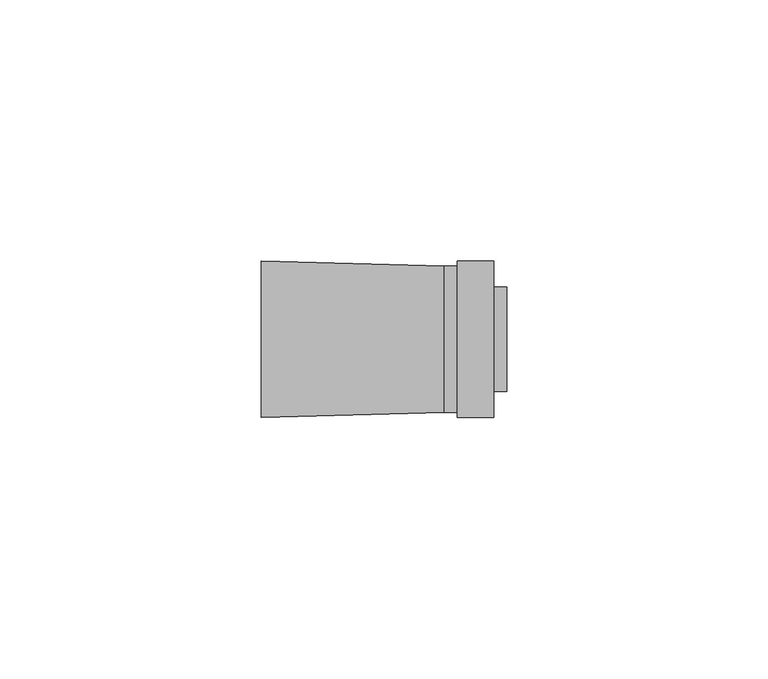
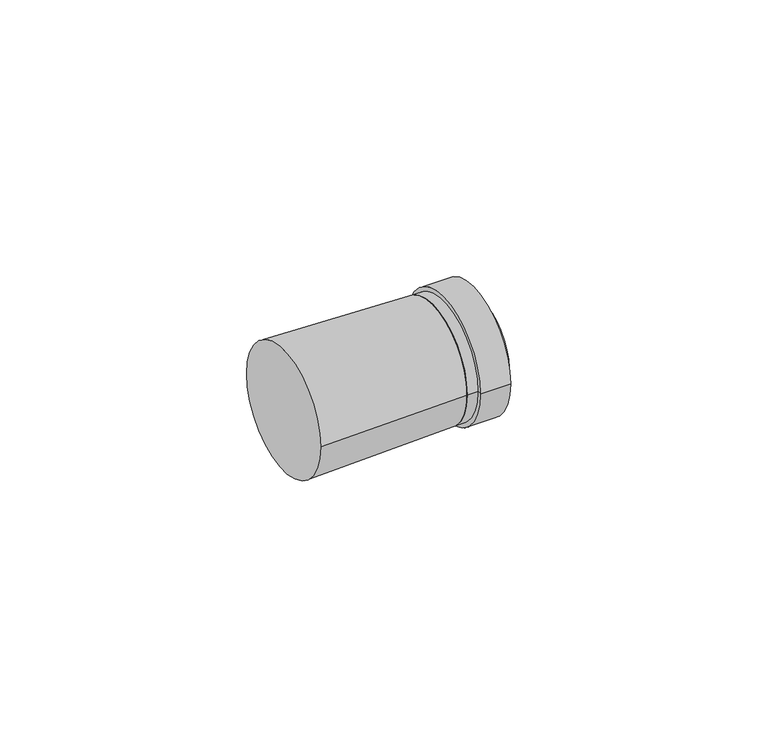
"""IFC4 building model written with IfcOpenShell, lengths in millimetres: cable carrier fitting geometry."""

from ifc_helpers import new_model, si_unit, frame, origin, place, context, project, spatial, polyline, circle_curve, source, transform, mapped, element, save
from ifc_brep_helpers import plane_surface, cylinder_surface, revolved_surface, advanced_brep


def cable_carrier_fitting_1d697b25(model_context):
    return source(origin(), model_context, "Body", "AdvancedBrep", [
        advanced_brep(
        [(23.5, -10.0, 0.0), (23.5, 10.0, 0.0), (23.5, 0.0, 0.0), (21.0, -10.0, 0.0), (21.0, 10.0, 0.0), (21.0, -15.0, 0.0), (21.0, 15.0, 0.0), (14.0, -15.0, 0.0), (14.0, 15.0, 0.0), (14.0, -14.0, 0.0), (14.0, 14.0, 0.0), (11.5, -14.0, 0.0), (11.5, 14.0, 0.0), (11.5, 0.0, 0.0)],
        [
            (0, 1, circle_curve(frame((23.5, 0.0, 0.0), z_axis=(1.0, 0.0, 0.0), x_axis=(0.0, 1.0, 0.0)), 10.0)),
            (1, 2),
            (2, 0),
            (1, 0, circle_curve(frame((23.5, 0.0, 0.0), z_axis=(1.0, 0.0, 0.0), x_axis=(0.0, 1.0, 0.0)), 10.0)),
            (3, 4, circle_curve(frame((21.0, 0.0, 0.0), z_axis=(1.0, 0.0, 0.0), x_axis=(0.0, 1.0, 0.0)), 10.0)),
            (4, 1),
            (0, 3),
            (4, 3, circle_curve(frame((21.0, 0.0, 0.0), z_axis=(1.0, 0.0, 0.0), x_axis=(0.0, 1.0, 0.0)), 10.0)),
            (5, 6, circle_curve(frame((21.0, 0.0, 0.0), z_axis=(1.0, 0.0, 0.0), x_axis=(0.0, 1.0, 0.0)), 15.0)),
            (6, 4),
            (3, 5),
            (6, 5, circle_curve(frame((21.0, 0.0, 0.0), z_axis=(1.0, 0.0, 0.0), x_axis=(0.0, 1.0, 0.0)), 15.0)),
            (7, 8, circle_curve(frame((14.0, 0.0, 0.0), z_axis=(1.0, 0.0, 0.0), x_axis=(0.0, 1.0, 0.0)), 15.0)),
            (8, 6),
            (5, 7),
            (8, 7, circle_curve(frame((14.0, 0.0, 0.0), z_axis=(1.0, 0.0, 0.0), x_axis=(0.0, 1.0, 0.0)), 15.0)),
            (9, 10, circle_curve(frame((14.0, 0.0, 0.0), z_axis=(1.0, 0.0, 0.0), x_axis=(0.0, 1.0, 0.0)), 14.0)),
            (10, 8),
            (7, 9),
            (10, 9, circle_curve(frame((14.0, 0.0, 0.0), z_axis=(1.0, 0.0, 0.0), x_axis=(0.0, 1.0, 0.0)), 14.0)),
            (11, 12, circle_curve(frame((11.5, 0.0, 0.0), z_axis=(1.0, 0.0, 0.0), x_axis=(0.0, 1.0, 0.0)), 14.0)),
            (12, 10),
            (9, 11),
            (12, 11, circle_curve(frame((11.5, 0.0, 0.0), z_axis=(1.0, 0.0, 0.0), x_axis=(0.0, 1.0, 0.0)), 14.0)),
            (13, 12),
            (11, 13),
        ],
        [
            plane_surface(frame((23.5, 0.0, 0.0), z_axis=(1.0, 0.0, 0.0), x_axis=(0.0, 1.0, 0.0))),
            cylinder_surface(frame((1519.0, 0.0, 0.0), z_axis=(-1.0, 0.0, 0.0), x_axis=(0.0, 1.0, 0.0)), 10.0),
            plane_surface(frame((21.0, 0.0, 0.0), z_axis=(1.0, 0.0, 0.0), x_axis=(0.0, 1.0, 0.0))),
            cylinder_surface(frame((1519.0, 0.0, 0.0), z_axis=(-1.0, 0.0, 0.0), x_axis=(0.0, 1.0, 0.0)), 15.0),
            plane_surface(frame((14.0, 0.0, 0.0), z_axis=(-1.0, 0.0, 0.0), x_axis=(0.0, 1.0, 0.0))),
            cylinder_surface(frame((1519.0, 0.0, 0.0), z_axis=(-1.0, 0.0, 0.0), x_axis=(0.0, 1.0, 0.0)), 14.0),
            plane_surface(frame((11.5, 0.0, 0.0), z_axis=(-1.0, 0.0, 0.0), x_axis=(0.0, 1.0, 0.0))),
        ],
        [
            (0, [[1, 2, 3]]),
            (0, [[4, -3, -2]]),
            (1, [[5, 6, -1, 7]]),
            (1, [[8, -7, -4, -6]]),
            (2, [[9, 10, -5, 11]]),
            (2, [[12, -11, -8, -10]]),
            (3, [[13, 14, -9, 15]]),
            (3, [[16, -15, -12, -14]]),
            (4, [[17, 18, -13, 19]]),
            (4, [[20, -19, -16, -18]]),
            (5, [[21, 22, -17, 23]]),
            (5, [[24, -23, -20, -22]]),
            (6, [[25, -21, 26]]),
            (6, [[-26, -24, -25]]),
        ],
    ),
        advanced_brep(
        [(-23.5, -15.0, 0.0), (-23.5, 15.0, 0.0), (11.5, -14.0, 0.0), (11.5, 14.0, 0.0)],
        [
            (0, 1, circle_curve(frame((-23.5, 0.0, 0.0), z_axis=(-1.0, 0.0, 0.0), x_axis=(0.0, -1.0, 0.0)), 15.0)),
            (1, 0, circle_curve(frame((-23.5, 0.0, 0.0), z_axis=(-1.0, 0.0, 0.0), x_axis=(0.0, 1.0, 0.0)), 15.0)),
            (2, 3, circle_curve(frame((11.5, 0.0, 0.0), z_axis=(1.0, 0.0, 0.0), x_axis=(0.0, 1.0, 0.0)), 14.0)),
            (3, 2, circle_curve(frame((11.5, 0.0, 0.0), z_axis=(1.0, 0.0, 0.0), x_axis=(0.0, -1.0, 0.0)), 14.0)),
            (2, 0),
            (1, 3),
        ],
        [
            plane_surface(frame((-23.5, 0.0, 0.0), z_axis=(-1.0, 0.0, 0.0), x_axis=(0.0, 0.0, -1.0))),
            plane_surface(frame((11.5, 0.0, 0.0), z_axis=(1.0, 0.0, 0.0), x_axis=(0.0, 0.0, -1.0))),
            revolved_surface(polyline([(11.5, -14.0, 0.0), (-23.5, -15.0, 0.0)]), (501.5, 0.0, 0.0), (-1.0, 0.0, 0.0)),
            revolved_surface(polyline([(11.5, 14.0, 0.0), (-23.5, 15.0, 0.0)]), (501.5, 0.0, 0.0), (-1.0, 0.0, 0.0)),
        ],
        [
            (0, [[1, 2]]),
            (1, [[3, 4]]),
            (2, [[-3, 5, -2, 6]]),
            (3, [[-4, -6, -1, -5]]),
        ],
    ),
    ])


if __name__ == "__main__":
    model = new_model("IFC4")
    model_context = context("Model", 3, world=origin())
    ifc_project = project(units=[si_unit("LENGTHUNIT", "METRE", prefix="MILLI")], contexts=[model_context])
    site = spatial("IfcSite", under=ifc_project)
    building = spatial("IfcBuilding", under=site)
    placement = place(None, origin())
    cable_carrier_fitting_shape = cable_carrier_fitting_1d697b25(model_context)
    element("IfcCableCarrierFitting", 1, at=placement, inside=building, context=model_context, shape_type="MappedRepresentation", body=[
        mapped(cable_carrier_fitting_shape, transform((0.0, 0.0, 0.0), x_axis=(1.0, 0.0, 0.0), y_axis=(0.0, 1.0, 0.0), z_axis=(0.0, 0.0, 1.0))),
    ])
    save(model, "model.ifc")
